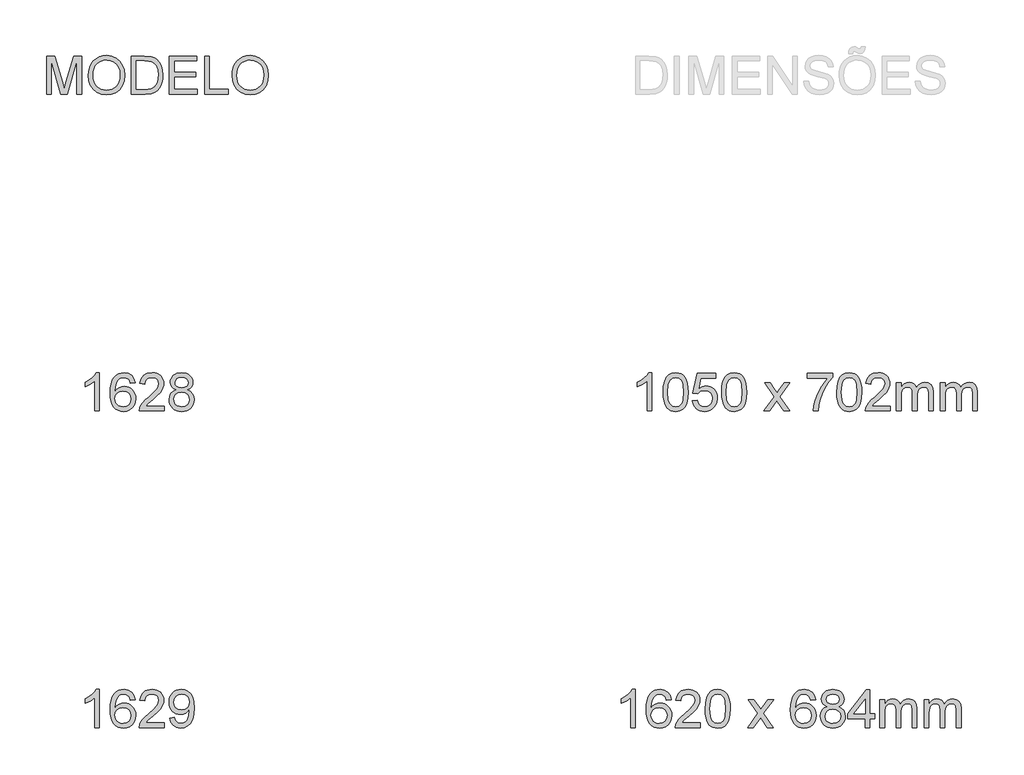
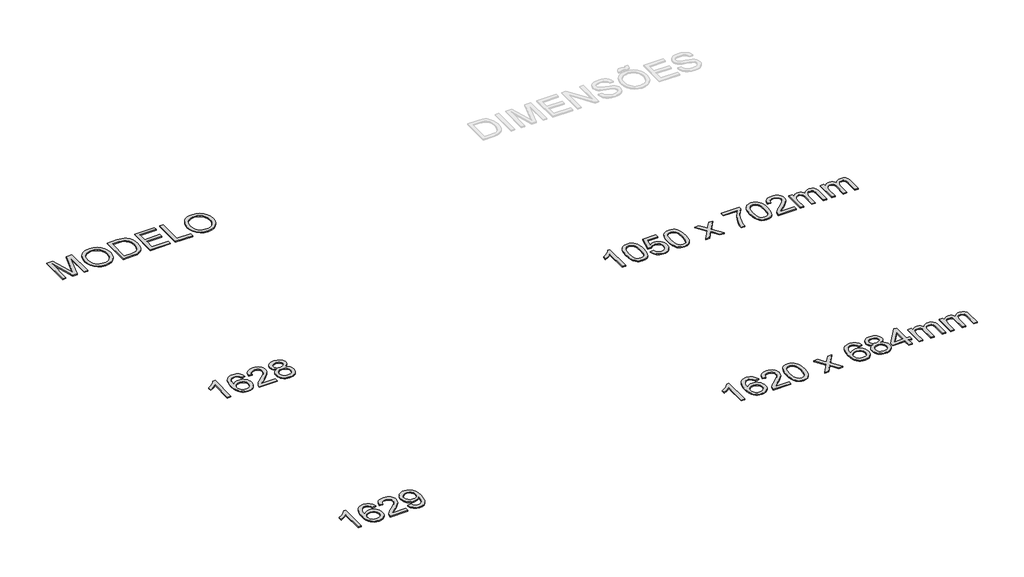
# One storey, part 37 of 39: 5 proxies.
"""IFC4 building model written with IfcOpenShell, lengths in millimetres."""

from ifc_helpers import new_model, si_unit, origin, origin_with_axes, place, context, project, spatial, polyline, outline, extrude, element, save

model = new_model("IFC4")

# Units and contexts
model_context = context("Model", 3, world=origin())
ifc_project = project(units=[si_unit("LENGTHUNIT", "METRE", prefix="MILLI")], contexts=[model_context])

# Site, building, storey
site = spatial("IfcSite", under=ifc_project)
building = spatial("IfcBuilding", under=site)
storey = spatial("IfcBuildingStorey", under=building, Name="Marelli - Linha PROFIT - Planta Baixa", Elevation=0.0)

# Proxies
placement = place(None, origin())
element("IfcBuildingElementProxy", 1, Name="300mm Arial", ObjectType="300mm Arial", at=placement, inside=storey, context=model_context, shape_type="SweptSolid", body=[
    extrude(outline(polyline([(24811.8052865, 11719.4336799), (24774.1341702, 11719.4336799), (24774.1341702, 11954.2895457), (24738.4496167, 11928.8688998), (24698.7919376, 11909.8494006), (24698.7919376, 11945.4603778), (24728.378847, 11961.5552151), (24754.011025, 11980.7034729), (24774.2169436, 12001.0657413), (24787.5250748, 12020.8026104), (24811.8052865, 12020.8026104), (24811.8052865, 11719.4336799)])), origin_with_axes(), (0.0, 0.0, 1.0), 10.0),
    extrude(outline(polyline([(24901.2741877, 11867.690124), (24904.0424997, 11915.9286506), (24912.3474358, 11954.3999103), (24926.1062224, 11983.6925141), (24945.2360861, 12004.3950734), (24969.8749828, 12016.7007261), (25000.160868, 12020.8026104), (25023.3742219, 12018.3745892), (25044.1595546, 12011.0905257), (25061.5419789, 11999.2355284), (25074.5466074, 11983.0947059), (25084.3690567, 11962.8060138), (25092.2049432, 11938.5074081), (25097.336897, 11907.6513057), (25099.0475483, 11867.690124), (25096.3068275, 11819.7275089), (25088.0846649, 11781.3482197), (25074.4086517, 11752.0280247), (25055.3063791, 11731.242692), (25030.6123002, 11718.8542658), (25000.160868, 11714.7247904), (24979.4123235, 11716.5182151), (24961.0182237, 11721.8984893), (24944.9785687, 11730.8656129), (24931.2933585, 11743.419586), (24918.1599713, 11766.1133066), (24908.7789804, 11794.3896364), (24903.1503859, 11828.2485756), (24901.2741877, 11867.690124)]), holes=[polyline([(24938.945304, 11867.7637004), (24943.359888, 11808.507108), (24948.8781179, 11788.2391093), (24956.6036398, 11774.211309), (24976.3221147, 11757.8497573), (25000.160868, 11752.3959067), (25023.9996213, 11757.8681514), (25043.7180962, 11774.2848854), (25051.4436181, 11788.3356784), (25056.9618481, 11808.5990785), (25061.376432, 11867.7637004), (25057.1090009, 11925.6867205), (25051.7747119, 11945.8880406), (25044.3067074, 11960.249234), (25024.6250207, 11977.410929), (24999.7194096, 11983.1314941), (24976.1381737, 11978.0915107), (24957.192251, 11962.9715607), (24949.2092117, 11947.3365759), (24943.5070408, 11926.2569376), (24938.945304, 11867.7637004)])]), origin_with_axes(), (0.0, 0.0, 1.0), 10.0),
    extrude(outline(polyline([(25132.0097751, 11799.4848021), (25169.6808914, 11804.1936916), (25176.5970729, 11781.578146), (25188.6636023, 11765.3821411), (25205.8252974, 11755.6424653), (25228.0269758, 11752.3959067), (25255.0295143, 11756.9116582), (25275.263024, 11770.4589127), (25287.8997705, 11791.4741716), (25292.1120194, 11818.3939366), (25288.166485, 11843.7410061), (25276.3298818, 11863.1283872), (25256.5102393, 11875.43404), (25228.615587, 11879.5359242), (25210.3410489, 11877.8988494), (25195.5429957, 11872.9876247), (25174.3897809, 11855.9914765), (25136.7186646, 11860.7003661), (25169.6808914, 12016.0937208), (25315.6564671, 12016.0937208), (25315.6564671, 11978.4226045), (25200.1415206, 11978.4226045), (25184.0282892, 11895.4284264), (25210.9388572, 11911.762387), (25239.1370121, 11917.2070405), (25257.4828273, 11915.5193819), (25274.334122, 11910.4564059), (25289.690896, 11902.0181127), (25303.5531494, 11890.2045021), (25315.0287684, 11875.7375426), (25323.2256391, 11859.3392027), (25328.1437616, 11841.0094823), (25329.7831357, 11820.7483814), (25323.8786297, 11783.0772651), (25316.4979971, 11766.283452), (25306.1651116, 11750.8508023), (25290.5117327, 11735.0456721), (25272.2463917, 11723.7562934), (25251.3690884, 11716.9826661), (25227.879823, 11714.7247904), (25190.8800914, 11720.5281289), (25175.2014206, 11727.782302), (25161.4035465, 11737.9381443), (25149.923329, 11750.4898181), (25141.1976279, 11764.9314857), (25132.0097751, 11799.4848021)])), origin_with_axes(), (0.0, 0.0, 1.0), 10.0),
    extrude(outline(polyline([(25362.7453625, 11867.690124), (25365.5136745, 11915.9286506), (25373.8186105, 11954.3999103), (25387.5773971, 11983.6925141), (25406.7072609, 12004.3950734), (25431.3461575, 12016.7007261), (25461.6320428, 12020.8026104), (25484.8453967, 12018.3745892), (25505.6307294, 12011.0905257), (25523.0131537, 11999.2355284), (25536.0177822, 11983.0947059), (25545.8402315, 11962.8060138), (25553.676118, 11938.5074081), (25558.8080718, 11907.6513057), (25560.5187231, 11867.690124), (25557.7780022, 11819.7275089), (25549.5558396, 11781.3482197), (25535.8798264, 11752.0280247), (25516.7775538, 11731.242692), (25492.0834749, 11718.8542658), (25461.6320428, 11714.7247904), (25440.8834982, 11716.5182151), (25422.4893985, 11721.8984893), (25406.4497435, 11730.8656129), (25392.7645333, 11743.419586), (25379.631146, 11766.1133066), (25370.2501552, 11794.3896364), (25364.6215606, 11828.2485756), (25362.7453625, 11867.690124)]), holes=[polyline([(25400.4164788, 11867.7637004), (25404.8310627, 11808.507108), (25410.3492926, 11788.2391093), (25418.0748145, 11774.211309), (25437.7932895, 11757.8497573), (25461.6320428, 11752.3959067), (25485.4707961, 11757.8681514), (25505.189271, 11774.2848854), (25512.9147929, 11788.3356784), (25518.4330228, 11808.5990785), (25522.8476068, 11867.7637004), (25518.5801756, 11925.6867205), (25513.2458867, 11945.8880406), (25505.7778822, 11960.249234), (25486.0961954, 11977.410929), (25461.1905844, 11983.1314941), (25437.6093485, 11978.0915107), (25418.6634257, 11962.9715607), (25410.6803864, 11947.3365759), (25404.9782155, 11926.2569376), (25400.4164788, 11867.7637004)])]), origin_with_axes(), (0.0, 0.0, 1.0), 10.0),
    extrude(outline(polyline([(25697.0765197, 11719.4336799), (25777.5691002, 11830.6811953), (25701.7854092, 11940.7514882), (25747.108471, 11940.7514882), (25783.6759413, 11887.7764809), (25800.7456659, 11862.7605053), (25815.5345221, 11883.2147442), (25857.178764, 11940.7514882), (25902.5018258, 11940.7514882), (25822.892162, 11830.6811953), (25899.5587698, 11719.4336799), (25854.235708, 11719.4336799), (25808.1033058, 11786.3146267), (25799.6420199, 11798.5283089), (25742.3995815, 11719.4336799), (25697.0765197, 11719.4336799)])), origin_with_axes(), (0.0, 0.0, 1.0), 10.0),
    extrude(outline(polyline([(26040.825456, 11978.4226045), (26040.825456, 12016.0937208), (26238.5988166, 12016.0937208), (26238.5988166, 11985.6330916), (26210.4098587, 11949.9577352), (26182.4968123, 11904.5886881), (26157.8763098, 11853.6646229), (26139.5649835, 11801.3242121), (26130.5886628, 11762.1631737), (26125.5854677, 11719.4336799), (26087.9143514, 11719.4336799), (26091.9886445, 11758.2636245), (26102.8871486, 11804.4144208), (26120.3155581, 11853.3335291), (26143.9795674, 11900.4684098), (26171.6075053, 11943.0783418), (26200.9277003, 11978.4226045), (26040.825456, 11978.4226045)])), origin_with_axes(), (0.0, 0.0, 1.0), 10.0),
    extrude(outline(polyline([(26271.5610434, 11867.690124), (26274.3293554, 11915.9286506), (26282.6342914, 11954.3999103), (26296.393078, 11983.6925141), (26315.5229418, 12004.3950734), (26340.1618384, 12016.7007261), (26370.4477237, 12020.8026104), (26393.6610775, 12018.3745892), (26414.4464103, 12011.0905257), (26431.8288345, 11999.2355284), (26444.8334631, 11983.0947059), (26454.6559123, 11962.8060138), (26462.4917988, 11938.5074081), (26467.6237527, 11907.6513057), (26469.334404, 11867.690124), (26466.5936831, 11819.7275089), (26458.3715205, 11781.3482197), (26444.6955073, 11752.0280247), (26425.5932347, 11731.242692), (26400.8991558, 11718.8542658), (26370.4477237, 11714.7247904), (26349.6991791, 11716.5182151), (26331.3050794, 11721.8984893), (26315.2654244, 11730.8656129), (26301.5802142, 11743.419586), (26288.4468269, 11766.1133066), (26279.0658361, 11794.3896364), (26273.4372415, 11828.2485756), (26271.5610434, 11867.690124)]), holes=[polyline([(26309.2321597, 11867.7637004), (26313.6467436, 11808.507108), (26319.1649735, 11788.2391093), (26326.8904954, 11774.211309), (26346.6089704, 11757.8497573), (26370.4477237, 11752.3959067), (26394.2864769, 11757.8681514), (26414.0049519, 11774.2848854), (26421.7304738, 11788.3356784), (26427.2487037, 11808.5990785), (26431.6632877, 11867.7637004), (26427.3958565, 11925.6867205), (26422.0615676, 11945.8880406), (26414.5935631, 11960.249234), (26394.9118763, 11977.410929), (26370.0062653, 11983.1314941), (26346.4250294, 11978.0915107), (26327.4791066, 11962.9715607), (26319.4960673, 11947.3365759), (26313.7938964, 11926.2569376), (26309.2321597, 11867.7637004)])]), origin_with_axes(), (0.0, 0.0, 1.0), 10.0),
    extrude(outline(polyline([(26695.3611018, 11757.1047962), (26695.3611018, 11719.4336799), (26497.5877412, 11719.4336799), (26501.6344431, 11745.4061488), (26510.9234635, 11765.7040379), (26524.5167032, 11785.3949217), (26544.1799959, 11806.0055104), (26571.679175, 11829.0625145), (26612.3301355, 11865.1701323), (26636.7207118, 11891.8231829), (26648.9159999, 11913.4546442), (26652.9810959, 11934.4974943), (26649.1459261, 11953.3606436), (26637.6404168, 11969.0416137), (26619.9544898, 11979.609024), (26597.5780675, 11983.1314941), (26574.079605, 11979.6917974), (26555.823461, 11969.3727075), (26544.0420401, 11952.9835646), (26539.967747, 11931.3337092), (26502.2966307, 11936.0425987), (26511.4293013, 11972.4813103), (26519.9756599, 11987.0172476), (26531.1753673, 11999.0975727), (26544.7709063, 12008.5935267), (26560.5047594, 12015.376351), (26598.3874079, 12020.8026104), (26618.5772316, 12019.2942942), (26636.5459678, 12014.7693457), (26652.2936165, 12007.2277648), (26665.8201776, 11996.6695515), (26676.6841928, 11983.8764551), (26684.4442036, 11969.6302249), (26689.1002101, 11953.9308607), (26690.6522123, 11936.7783627), (26688.9783492, 11918.761342), (26683.9567599, 11901.057021), (26675.0448186, 11883.0491973), (26661.6998992, 11864.1216686), (26640.4271229, 11841.5245171), (26607.7316105, 11812.5078247), (26564.3951115, 11776.2714482), (26547.3989633, 11757.1047962), (26695.3611018, 11757.1047962)])), origin_with_axes(), (0.0, 0.0, 1.0), 10.0),
    extrude(outline(polyline([(26742.4499972, 11719.4336799), (26742.4499972, 11940.7514882), (26780.1211135, 11940.7514882), (26780.1211135, 11904.3311707), (26791.4518789, 11921.0606044), (26806.0200059, 11934.1664005), (26823.3288538, 11942.6368835), (26842.8817819, 11945.4603778), (26863.8326615, 11942.5817012), (26880.6264746, 11933.9456713), (26893.1712506, 11920.1225054), (26901.3750191, 11901.6824203), (26915.1062146, 11920.8352767), (26930.7687905, 11934.5158884), (26948.3627469, 11942.7242554), (26967.8880838, 11945.4603778), (26996.2058004, 11940.9078381), (27017.147483, 11927.250219), (27030.0877322, 11904.1196386), (27034.4011485, 11871.1482147), (27034.4011485, 11719.4336799), (26996.7300322, 11719.4336799), (26996.7300322, 11854.961407), (26993.2351533, 11886.4153175), (26988.3239287, 11895.0881356), (26980.5800127, 11901.9031495), (26970.6196076, 11906.3177335), (26959.0589159, 11907.7892615), (26938.6506623, 11904.018471), (26922.013199, 11892.7060997), (26910.949148, 11873.0795952), (26907.261131, 11844.3664055), (26907.261131, 11719.4336799), (26869.5900147, 11719.4336799), (26869.5900147, 11859.1552617), (26867.4103139, 11880.4556292), (26860.8712114, 11895.6491556), (26849.365702, 11904.754235), (26832.2867804, 11907.7892615), (26817.7738357, 11905.7659105), (26804.4013252, 11899.6958576), (26793.3648653, 11889.7262555), (26785.8600726, 11876.0042571), (26781.5558533, 11856.9663638), (26780.1211135, 11831.0490773), (26780.1211135, 11719.4336799), (26742.4499972, 11719.4336799)])), origin_with_axes(), (0.0, 0.0, 1.0), 10.0),
    extrude(outline(polyline([(27090.907823, 11719.4336799), (27090.907823, 11940.7514882), (27128.5789393, 11940.7514882), (27128.5789393, 11904.3311707), (27139.9097048, 11921.0606044), (27154.4778318, 11934.1664005), (27171.7866796, 11942.6368835), (27191.3396077, 11945.4603778), (27212.2904873, 11942.5817012), (27229.0843004, 11933.9456713), (27241.6290764, 11920.1225054), (27249.8328449, 11901.6824203), (27263.5640404, 11920.8352767), (27279.2266163, 11934.5158884), (27296.8205728, 11942.7242554), (27316.3459097, 11945.4603778), (27344.6636262, 11940.9078381), (27365.6053088, 11927.250219), (27378.545558, 11904.1196386), (27382.8589744, 11871.1482147), (27382.8589744, 11719.4336799), (27345.1878581, 11719.4336799), (27345.1878581, 11854.961407), (27341.6929791, 11886.4153175), (27336.7817545, 11895.0881356), (27329.0378385, 11901.9031495), (27319.0774335, 11906.3177335), (27307.5167418, 11907.7892615), (27287.1084881, 11904.018471), (27270.4710249, 11892.7060997), (27259.4069738, 11873.0795952), (27255.7189568, 11844.3664055), (27255.7189568, 11719.4336799), (27218.0478405, 11719.4336799), (27218.0478405, 11859.1552617), (27215.8681397, 11880.4556292), (27209.3290373, 11895.6491556), (27197.8235279, 11904.754235), (27180.7446062, 11907.7892615), (27166.2316615, 11905.7659105), (27152.859151, 11899.6958576), (27141.8226911, 11889.7262555), (27134.3178984, 11876.0042571), (27130.0136791, 11856.9663638), (27128.5789393, 11831.0490773), (27128.5789393, 11719.4336799), (27090.907823, 11719.4336799)])), origin_with_axes(), (0.0, 0.0, 1.0), 10.0),
])
element("IfcBuildingElementProxy", 2, Name="300mm Arial", ObjectType="300mm Arial", at=placement, inside=storey, context=model_context, shape_type="SweptSolid", body=[
    extrude(outline(polyline([(24682.3108242, 9219.4336799), (24644.6397079, 9219.4336799), (24644.6397079, 9454.2895457), (24608.9551543, 9428.8688998), (24569.2974753, 9409.8494006), (24569.2974753, 9445.4603778), (24598.8843847, 9461.5552151), (24624.5165627, 9480.7034729), (24644.7224813, 9501.0657413), (24658.0306125, 9520.8026104), (24682.3108242, 9520.8026104), (24682.3108242, 9219.4336799)])), origin_with_axes(), (0.0, 0.0, 1.0), 10.0),
    extrude(outline(polyline([(24964.8441965, 9440.7514882), (24927.1730802, 9436.0425987), (24921.1030273, 9454.7126099), (24912.8992588, 9467.4597211), (24895.8111401, 9479.2135508), (24875.1545661, 9483.1314941), (24857.6433831, 9480.8506257), (24841.1622697, 9474.0080206), (24827.0080099, 9459.5962434), (24815.4473182, 9439.7582068), (24807.6390229, 9411.6980077), (24804.7419522, 9372.6197427), (24819.8527051, 9390.2504873), (24837.9616963, 9402.6757017), (24858.0572503, 9410.0425387), (24879.1276916, 9412.498151), (24897.2274858, 9410.8196894), (24913.9293283, 9405.7843046), (24929.2332193, 9397.3919966), (24943.1391588, 9385.6427654), (24954.6952519, 9371.2355867), (24962.9496042, 9354.8694365), (24967.9022156, 9336.5443146), (24969.553086, 9316.2602211), (24966.4444832, 9289.2852738), (24957.1186746, 9264.2784951), (24942.3482125, 9243.0700981), (24922.905649, 9227.4902956), (24899.673901, 9217.9161667), (24873.5358853, 9214.7247904), (24851.0789887, 9216.8401119), (24830.7971945, 9223.1860763), (24812.6905025, 9233.7626836), (24796.7589129, 9248.5699339), (24783.7703792, 9268.2332266), (24774.4928551, 9293.377961), (24768.9263407, 9324.0041371), (24767.0708359, 9360.1117549), (24769.130975, 9400.5925699), (24775.3113926, 9435.1412878), (24785.6120884, 9463.7579085), (24800.0330626, 9486.442432), (24815.6634489, 9501.4750101), (24833.7862357, 9512.2125658), (24854.401423, 9518.6550992), (24877.5090108, 9520.8026104), (24910.5632081, 9515.4867156), (24937.0323176, 9499.5390311), (24955.5735702, 9474.2103557), (24964.8441965, 9440.7514882)]), holes=[polyline([(24804.7419522, 9316.8488323), (24806.921653, 9300.1561867), (24813.4607555, 9284.2176993), (24823.6142985, 9270.514095), (24836.6373212, 9260.5260988), (24852.3550794, 9254.4284547), (24870.5928293, 9252.3959067), (24895.4524551, 9256.6081555), (24914.9961861, 9269.2449021), (24927.6605238, 9289.1105298), (24931.8819697, 9315.0094223), (24927.7157061, 9339.8690481), (24915.2169153, 9358.8241679), (24895.3420905, 9370.826318), (24869.0477249, 9374.8270347), (24844.2248873, 9370.826318), (24823.4671457, 9358.8241679), (24809.4232506, 9340.3289006), (24804.7419522, 9316.8488323)])]), origin_with_axes(), (0.0, 0.0, 1.0), 10.0),
    extrude(outline(polyline([(25195.5797839, 9257.1047962), (25195.5797839, 9219.4336799), (24997.8064233, 9219.4336799), (25001.8531252, 9245.4061488), (25011.1421456, 9265.7040379), (25024.7353853, 9285.3949217), (25044.3986779, 9306.0055104), (25071.8978571, 9329.0625145), (25112.5488175, 9365.1701323), (25136.9393938, 9391.8231829), (25149.134682, 9413.4546442), (25153.199778, 9434.4974943), (25149.3646082, 9453.3606436), (25137.8590988, 9469.0416137), (25120.1731719, 9479.609024), (25097.7967495, 9483.1314941), (25074.2982871, 9479.6917974), (25056.0421431, 9469.3727075), (25044.2607222, 9452.9835646), (25040.1864291, 9431.3337092), (25002.5153128, 9436.0425987), (25011.6479833, 9472.4813103), (25020.1943419, 9487.0172476), (25031.3940494, 9499.0975727), (25044.9895884, 9508.5935267), (25060.7234415, 9515.376351), (25098.6060899, 9520.8026104), (25118.7959137, 9519.2942942), (25136.7646499, 9514.7693457), (25152.5122985, 9507.2277648), (25166.0388596, 9496.6695515), (25176.9028748, 9483.8764551), (25184.6628857, 9469.6302249), (25189.3188922, 9453.9308607), (25190.8708943, 9436.7783627), (25189.1970312, 9418.761342), (25184.175442, 9401.057021), (25175.2635007, 9383.0491973), (25161.9185813, 9364.1216686), (25140.6458049, 9341.5245171), (25107.9502926, 9312.5078247), (25064.6137936, 9276.2714482), (25047.6176454, 9257.1047962), (25195.5797839, 9257.1047962)])), origin_with_axes(), (0.0, 0.0, 1.0), 10.0),
    extrude(outline(polyline([(25233.2509002, 9367.690124), (25236.0192122, 9415.9286506), (25244.3241482, 9454.3999103), (25258.0829348, 9483.6925141), (25277.2127986, 9504.3950734), (25301.8516952, 9516.7007261), (25332.1375805, 9520.8026104), (25355.3509344, 9518.3745892), (25376.1362671, 9511.0905257), (25393.5186914, 9499.2355284), (25406.5233199, 9483.0947059), (25416.3457692, 9462.8060138), (25424.1816557, 9438.5074081), (25429.3136095, 9407.6513057), (25431.0242608, 9367.690124), (25428.2835399, 9319.7275089), (25420.0613773, 9281.3482197), (25406.3853641, 9252.0280247), (25387.2830915, 9231.242692), (25362.5890126, 9218.8542658), (25332.1375805, 9214.7247904), (25311.3890359, 9216.5182151), (25292.9949362, 9221.8984893), (25276.9552812, 9230.8656129), (25263.270071, 9243.419586), (25250.1366837, 9266.1133066), (25240.7556929, 9294.3896364), (25235.1270983, 9328.2485756), (25233.2509002, 9367.690124)]), holes=[polyline([(25270.9220165, 9367.7637004), (25275.3366004, 9308.507108), (25280.8548303, 9288.2391093), (25288.5803522, 9274.211309), (25308.2988272, 9257.8497573), (25332.1375805, 9252.3959067), (25355.9763338, 9257.8681514), (25375.6948087, 9274.2848854), (25383.4203306, 9288.3356784), (25388.9385605, 9308.5990785), (25393.3531445, 9367.7637004), (25389.0857133, 9425.6867205), (25383.7514244, 9445.8880406), (25376.2834199, 9460.249234), (25356.6017331, 9477.410929), (25331.6961221, 9483.1314941), (25308.1148862, 9478.0915107), (25289.1689634, 9462.9715607), (25281.1859241, 9447.3365759), (25275.4837532, 9426.2569376), (25270.9220165, 9367.7637004)])]), origin_with_axes(), (0.0, 0.0, 1.0), 10.0),
    extrude(outline(polyline([(25567.5820574, 9219.4336799), (25648.0746379, 9330.6811953), (25572.2909469, 9440.7514882), (25617.6140087, 9440.7514882), (25654.181479, 9387.7764809), (25671.2512036, 9362.7605053), (25686.0400598, 9383.2147442), (25727.6843017, 9440.7514882), (25773.0073635, 9440.7514882), (25693.3976997, 9330.6811953), (25770.0643075, 9219.4336799), (25724.7412457, 9219.4336799), (25678.6088435, 9286.3146267), (25670.1475576, 9298.5283089), (25612.9051192, 9219.4336799), (25567.5820574, 9219.4336799)])), origin_with_axes(), (0.0, 0.0, 1.0), 10.0),
    extrude(outline(polyline([(26104.3954647, 9440.7514882), (26066.7243484, 9436.0425987), (26060.6542955, 9454.7126099), (26052.450527, 9467.4597211), (26035.3624083, 9479.2135508), (26014.7058343, 9483.1314941), (25997.1946513, 9480.8506257), (25980.713538, 9474.0080206), (25966.5592782, 9459.5962434), (25954.9985865, 9439.7582068), (25947.1902912, 9411.6980077), (25944.2932204, 9372.6197427), (25959.4039734, 9390.2504873), (25977.5129646, 9402.6757017), (25997.6085186, 9410.0425387), (26018.6789599, 9412.498151), (26036.778754, 9410.8196894), (26053.4805966, 9405.7843046), (26068.7844876, 9397.3919966), (26082.690427, 9385.6427654), (26094.2465202, 9371.2355867), (26102.5008725, 9354.8694365), (26107.4534838, 9336.5443146), (26109.1043543, 9316.2602211), (26105.9957514, 9289.2852738), (26096.6699428, 9264.2784951), (26081.8994807, 9243.0700981), (26062.4569173, 9227.4902956), (26039.2251693, 9217.9161667), (26013.0871535, 9214.7247904), (25990.630257, 9216.8401119), (25970.3484627, 9223.1860763), (25952.2417708, 9233.7626836), (25936.3101811, 9248.5699339), (25923.3216475, 9268.2332266), (25914.0441234, 9293.377961), (25908.4776089, 9324.0041371), (25906.6221041, 9360.1117549), (25908.6822433, 9400.5925699), (25914.8626608, 9435.1412878), (25925.1633567, 9463.7579085), (25939.5843309, 9486.442432), (25955.2147172, 9501.4750101), (25973.337504, 9512.2125658), (25993.9526913, 9518.6550992), (26017.0602791, 9520.8026104), (26050.1144764, 9515.4867156), (26076.5835859, 9499.5390311), (26095.1248385, 9474.2103557), (26104.3954647, 9440.7514882)]), holes=[polyline([(25944.2932204, 9316.8488323), (25946.4729213, 9300.1561867), (25953.0120237, 9284.2176993), (25963.1655668, 9270.514095), (25976.1885894, 9260.5260988), (25991.9063477, 9254.4284547), (26010.1440976, 9252.3959067), (26035.0037234, 9256.6081555), (26054.5474544, 9269.2449021), (26067.2117921, 9289.1105298), (26071.433238, 9315.0094223), (26067.2669744, 9339.8690481), (26054.7681836, 9358.8241679), (26034.8933588, 9370.826318), (26008.5989932, 9374.8270347), (25983.7761556, 9370.826318), (25963.018414, 9358.8241679), (25948.9745188, 9340.3289006), (25944.2932204, 9316.8488323)])]), origin_with_axes(), (0.0, 0.0, 1.0), 10.0),
    extrude(outline(polyline([(26196.9545747, 9385.4220362), (26176.7854443, 9395.35485), (26162.6311846, 9408.819331), (26154.2710662, 9425.5395677), (26151.4843601, 9445.2396486), (26153.0018734, 9460.6033204), (26157.554413, 9474.6886023), (26165.1419792, 9487.4954942), (26175.7645718, 9499.0239963), (26188.9117546, 9508.5521399), (26204.0730913, 9515.3579569), (26240.4382266, 9520.8026104), (26277.024091, 9515.2291982), (26292.3509746, 9508.2624329), (26305.7004925, 9498.5089615), (26316.5162232, 9486.7551317), (26324.2417451, 9473.7872914), (26328.8770582, 9459.6054405), (26330.4221626, 9444.209579), (26327.6722447, 9425.1440946), (26319.4224909, 9408.7089665), (26305.5809309, 9395.3272589), (26286.055594, 9385.4220362), (26309.2413567, 9373.4750684), (26326.1179432, 9355.8811119), (26336.4094421, 9333.4862955), (26339.8399417, 9307.1367476), (26338.1384874, 9288.3471747), (26333.0341247, 9271.1211003), (26324.5268536, 9255.4585243), (26312.616674, 9241.3594468), (26297.9289854, 9229.7067846), (26281.089187, 9221.3834545), (26262.097279, 9216.3894564), (26240.9532614, 9214.7247904), (26219.8092437, 9216.3963542), (26200.8173357, 9221.4110457), (26183.9775373, 9229.7688647), (26169.2898487, 9241.4698114), (26157.3796691, 9255.6677572), (26148.872398, 9271.5165734), (26143.7680353, 9289.0162601), (26142.066581, 9308.1668172), (26145.6350364, 9335.5372376), (26156.3404025, 9358.0516157), (26173.6308562, 9374.9373993), (26196.9545747, 9385.4220362)]), holes=[polyline([(26189.1554764, 9444.1360026), (26192.4940055, 9427.6916774), (26202.5095929, 9414.5582902), (26218.9079328, 9405.9498515), (26241.3947197, 9403.0803719), (26263.3572749, 9405.9314574), (26279.5072944, 9414.4847138), (26289.4401083, 9427.1766426), (26292.7510463, 9442.4437454), (26289.3297437, 9458.2902624), (26279.0658361, 9471.3960584), (26262.6950873, 9480.1976352), (26240.9532614, 9483.1314941), (26219.0734797, 9480.2620145), (26202.7303221, 9471.6535758), (26192.5491878, 9459.0352234), (26189.1554764, 9444.1360026)]), polyline([(26179.7376974, 9309.4911924), (26186.0284795, 9281.1274905), (26194.7380857, 9268.9597935), (26208.2853402, 9259.9006994), (26224.5089362, 9254.2721049), (26241.2475669, 9252.3959067), (26266.888942, 9256.3414411), (26286.1291704, 9268.1780443), (26298.1589116, 9286.1030945), (26302.1688253, 9308.31397), (26298.0301529, 9330.9019245), (26285.6141356, 9349.2224478), (26265.9324488, 9361.3625537), (26239.9967682, 9365.4092556), (26214.714078, 9361.417736), (26195.6669877, 9349.443177), (26183.72002, 9331.4721416), (26179.7376974, 9309.4911924)])]), origin_with_axes(), (0.0, 0.0, 1.0), 10.0),
    extrude(outline(polyline([(26495.2332964, 9219.4336799), (26495.2332964, 9290.067023), (26358.6754998, 9290.067023), (26358.6754998, 9327.7381393), (26504.6510755, 9516.0937208), (26532.9044127, 9516.0937208), (26532.9044127, 9327.7381393), (26570.575529, 9327.7381393), (26570.575529, 9290.067023), (26532.9044127, 9290.067023), (26532.9044127, 9219.4336799), (26495.2332964, 9219.4336799)]), holes=[polyline([(26495.2332964, 9327.7381393), (26495.2332964, 9444.1360026), (26405.0286312, 9327.7381393), (26495.2332964, 9327.7381393)])]), origin_with_axes(), (0.0, 0.0, 1.0), 10.0),
    extrude(outline(polyline([(26612.9555349, 9219.4336799), (26612.9555349, 9440.7514882), (26650.6266512, 9440.7514882), (26650.6266512, 9404.3311707), (26661.9574166, 9421.0606044), (26676.5255436, 9434.1664005), (26693.8343915, 9442.6368835), (26713.3873196, 9445.4603778), (26734.3381992, 9442.5817012), (26751.1320123, 9433.9456713), (26763.6767883, 9420.1225054), (26771.8805568, 9401.6824203), (26785.6117523, 9420.8352767), (26801.2743282, 9434.5158884), (26818.8682846, 9442.7242554), (26838.3936215, 9445.4603778), (26866.7113381, 9440.9078381), (26887.6530207, 9427.250219), (26900.5932699, 9404.1196386), (26904.9066862, 9371.1482147), (26904.9066862, 9219.4336799), (26867.2355699, 9219.4336799), (26867.2355699, 9354.961407), (26863.740691, 9386.4153175), (26858.8294664, 9395.0881356), (26851.0855504, 9401.9031495), (26841.1251453, 9406.3177335), (26829.5644536, 9407.7892615), (26809.1562, 9404.018471), (26792.5187367, 9392.7060997), (26781.4546857, 9373.0795952), (26777.7666687, 9344.3664055), (26777.7666687, 9219.4336799), (26740.0955524, 9219.4336799), (26740.0955524, 9359.1552617), (26737.9158516, 9380.4556292), (26731.3767491, 9395.6491556), (26719.8712397, 9404.754235), (26702.7923181, 9407.7892615), (26688.2793734, 9405.7659105), (26674.9068629, 9399.6958576), (26663.870403, 9389.7262555), (26656.3656103, 9376.0042571), (26652.061391, 9356.9663638), (26650.6266512, 9331.0490773), (26650.6266512, 9219.4336799), (26612.9555349, 9219.4336799)])), origin_with_axes(), (0.0, 0.0, 1.0), 10.0),
    extrude(outline(polyline([(26961.4133607, 9219.4336799), (26961.4133607, 9440.7514882), (26999.084477, 9440.7514882), (26999.084477, 9404.3311707), (27010.4152425, 9421.0606044), (27024.9833695, 9434.1664005), (27042.2922173, 9442.6368835), (27061.8451454, 9445.4603778), (27082.796025, 9442.5817012), (27099.5898381, 9433.9456713), (27112.1346141, 9420.1225054), (27120.3383826, 9401.6824203), (27134.0695781, 9420.8352767), (27149.732154, 9434.5158884), (27167.3261105, 9442.7242554), (27186.8514474, 9445.4603778), (27215.1691639, 9440.9078381), (27236.1108465, 9427.250219), (27249.0510957, 9404.1196386), (27253.3645121, 9371.1482147), (27253.3645121, 9219.4336799), (27215.6933958, 9219.4336799), (27215.6933958, 9354.961407), (27212.1985168, 9386.4153175), (27207.2872922, 9395.0881356), (27199.5433762, 9401.9031495), (27189.5829712, 9406.3177335), (27178.0222795, 9407.7892615), (27157.6140258, 9404.018471), (27140.9765626, 9392.7060997), (27129.9125115, 9373.0795952), (27126.2244945, 9344.3664055), (27126.2244945, 9219.4336799), (27088.5533782, 9219.4336799), (27088.5533782, 9359.1552617), (27086.3736774, 9380.4556292), (27079.834575, 9395.6491556), (27068.3290656, 9404.754235), (27051.2501439, 9407.7892615), (27036.7371992, 9405.7659105), (27023.3646887, 9399.6958576), (27012.3282288, 9389.7262555), (27004.8234361, 9376.0042571), (27000.5192168, 9356.9663638), (26999.084477, 9331.0490773), (26999.084477, 9219.4336799), (26961.4133607, 9219.4336799)])), origin_with_axes(), (0.0, 0.0, 1.0), 10.0),
])
element("IfcBuildingElementProxy", 3, Name="300mm Arial", ObjectType="300mm Arial", at=placement, inside=storey, context=model_context, shape_type="SweptSolid", body=[
    extrude(outline(polyline([(20033.1230948, 14219.4336799), (20033.1230948, 14520.8026104), (20097.9439023, 14520.8026104), (20159.6009247, 14308.3875464), (20172.0353362, 14264.0209777), (20185.4998172, 14312.0663663), (20246.12677, 14520.8026104), (20310.9475775, 14520.8026104), (20310.9475775, 14219.4336799), (20273.2764612, 14219.4336799), (20273.2764612, 14483.1314941), (20197.5663466, 14219.4336799), (20146.5043257, 14219.4336799), (20070.7942111, 14483.1314941), (20070.7942111, 14219.4336799), (20033.1230948, 14219.4336799)])), origin_with_axes(), (0.0, 0.0, 1.0), 10.0),
    extrude(outline(polyline([(20362.7453625, 14366.1450196), (20365.2561571, 14401.4938808), (20372.7885409, 14432.786843), (20385.342514, 14460.0239063), (20402.9180763, 14483.2050705), (20424.4621657, 14501.7141334), (20448.9217198, 14514.9348926), (20476.2967388, 14522.8673481), (20506.5872226, 14525.5114999), (20546.116143, 14520.545093), (20581.5615732, 14505.6458722), (20610.9921328, 14481.8623012), (20632.4764413, 14450.2428437), (20645.6098286, 14412.31421), (20649.9876243, 14369.6031104), (20645.3799023, 14326.3217936), (20631.5567363, 14287.859731), (20609.2814815, 14256.1850912), (20579.317493, 14233.266043), (20544.1755654, 14219.3601035), (20506.3664934, 14214.7247904), (20466.2305677, 14219.8475472), (20430.5828024, 14235.2158175), (20401.2258192, 14259.4408469), (20379.9622398, 14291.1338808), (20367.0495818, 14327.6001836), (20362.7453625, 14366.1450196)]), holes=[polyline([(20400.4164788, 14365.7771376), (20402.2995747, 14340.8025487), (20407.9488626, 14318.6330599), (20417.3643424, 14299.2686714), (20430.5460142, 14282.7093831), (20446.5695743, 14269.4472372), (20464.5107194, 14259.9742758), (20484.3694493, 14254.290499), (20506.1457642, 14252.3959067), (20528.2945596, 14254.3088931), (20548.3878143, 14260.0478522), (20566.4255284, 14269.6127841), (20582.4077018, 14283.0036887), (20595.4928045, 14299.9124649), (20604.8393064, 14320.0310115), (20610.4472076, 14343.3593285), (20612.316508, 14369.897416), (20609.1159346, 14403.2459188), (20599.5142146, 14432.0694731), (20583.7596681, 14455.641512), (20562.1006157, 14473.2354684), (20535.9717969, 14484.1891548), (20506.8079518, 14487.8403836), (20485.7880943, 14486.0814478), (20466.28575, 14480.8046405), (20448.300919, 14472.0099615), (20431.8336012, 14459.697411), (20418.0886101, 14443.2737792), (20408.2707594, 14422.1458563), (20402.3800489, 14396.3136425), (20400.4164788, 14365.7771376)])]), origin_with_axes(), (0.0, 0.0, 1.0), 10.0),
    extrude(outline(polyline([(20701.7854092, 14219.4336799), (20701.7854092, 14520.8026104), (20805.7488611, 14520.8026104), (20859.5332088, 14516.4616028), (20883.555903, 14508.0922874), (20903.826201, 14494.9037179), (20924.666716, 14471.9478814), (20939.5107545, 14443.4002386), (20948.3951047, 14409.8126124), (20951.3565547, 14371.7368259), (20949.3515979, 14339.3908015), (20943.3367273, 14310.9259321), (20934.1764656, 14286.6917057), (20922.7353355, 14267.0376101), (20909.5651601, 14251.522187), (20895.2177623, 14239.7039779), (20878.745846, 14230.9391893), (20859.202115, 14224.5840279), (20810.7520562, 14219.4336799), (20701.7854092, 14219.4336799)]), holes=[polyline([(20739.4565255, 14257.1047962), (20806.1167431, 14257.1047962), (20833.6894986, 14258.4659596), (20854.60359, 14262.5494498), (20870.3857276, 14269.1161434), (20882.5626217, 14277.9269172), (20895.6500236, 14294.2332866), (20905.4816699, 14315.3405161), (20911.6344963, 14341.3405761), (20913.6854384, 14372.3254371), (20909.6663276, 14413.3810678), (20897.6089953, 14443.6945442), (20879.7943096, 14464.5166651), (20858.5031392, 14477.0982294), (20836.8348896, 14481.6231779), (20805.0866735, 14483.1314941), (20739.4565255, 14483.1314941), (20739.4565255, 14257.1047962)])]), origin_with_axes(), (0.0, 0.0, 1.0), 10.0),
    extrude(outline(polyline([(21003.1543397, 14219.4336799), (21003.1543397, 14520.8026104), (21219.7632584, 14520.8026104), (21219.7632584, 14483.1314941), (21040.825456, 14483.1314941), (21040.825456, 14393.6625928), (21210.3454794, 14393.6625928), (21210.3454794, 14355.9914765), (21040.825456, 14355.9914765), (21040.825456, 14257.1047962), (21224.472148, 14257.1047962), (21224.472148, 14219.4336799), (21003.1543397, 14219.4336799)])), origin_with_axes(), (0.0, 0.0, 1.0), 10.0),
    extrude(outline(polyline([(21280.9788224, 14219.4336799), (21280.9788224, 14520.8026104), (21318.6499387, 14520.8026104), (21318.6499387, 14257.1047962), (21469.334404, 14257.1047962), (21469.334404, 14219.4336799), (21280.9788224, 14219.4336799)])), origin_with_axes(), (0.0, 0.0, 1.0), 10.0),
    extrude(outline(polyline([(21497.5877412, 14366.1450196), (21500.0985358, 14401.4938808), (21507.6309197, 14432.786843), (21520.1848927, 14460.0239063), (21537.7604551, 14483.2050705), (21559.3045444, 14501.7141334), (21583.7640986, 14514.9348926), (21611.1391175, 14522.8673481), (21641.4296013, 14525.5114999), (21680.9585217, 14520.545093), (21716.4039519, 14505.6458722), (21745.8345115, 14481.8623012), (21767.3188201, 14450.2428437), (21780.4522073, 14412.31421), (21784.830003, 14369.6031104), (21780.222281, 14326.3217936), (21766.3991151, 14287.859731), (21744.1238603, 14256.1850912), (21714.1598717, 14233.266043), (21679.0179442, 14219.3601035), (21641.2088721, 14214.7247904), (21601.0729464, 14219.8475472), (21565.4251811, 14235.2158175), (21536.0681979, 14259.4408469), (21514.8046186, 14291.1338808), (21501.8919605, 14327.6001836), (21497.5877412, 14366.1450196)]), holes=[polyline([(21535.2588575, 14365.7771376), (21537.1419535, 14340.8025487), (21542.7912413, 14318.6330599), (21552.2067212, 14299.2686714), (21565.3883929, 14282.7093831), (21581.4119531, 14269.4472372), (21599.3530981, 14259.9742758), (21619.2118281, 14254.290499), (21640.9881429, 14252.3959067), (21663.1369383, 14254.3088931), (21683.230193, 14260.0478522), (21701.2679071, 14269.6127841), (21717.2500805, 14283.0036887), (21730.3351832, 14299.9124649), (21739.6816852, 14320.0310115), (21745.2895863, 14343.3593285), (21747.1588867, 14369.897416), (21743.9583134, 14403.2459188), (21734.3565933, 14432.0694731), (21718.6020468, 14455.641512), (21696.9429944, 14473.2354684), (21670.8141757, 14484.1891548), (21641.6503305, 14487.8403836), (21620.630473, 14486.0814478), (21601.1281287, 14480.8046405), (21583.1432977, 14472.0099615), (21566.6759799, 14459.697411), (21552.9309888, 14443.2737792), (21543.1131381, 14422.1458563), (21537.2224276, 14396.3136425), (21535.2588575, 14365.7771376)])]), origin_with_axes(), (0.0, 0.0, 1.0), 10.0),
])
element("IfcBuildingElementProxy", 4, Name="300mm Arial", ObjectType="300mm Arial", at=placement, inside=storey, context=model_context, shape_type="SweptSolid", body=[
    extrude(outline(polyline([(20449.8598189, 11719.4336799), (20412.1887026, 11719.4336799), (20412.1887026, 11954.2895457), (20376.5041491, 11928.8688998), (20336.84647, 11909.8494006), (20336.84647, 11945.4603778), (20366.4333795, 11961.5552151), (20392.0655575, 11980.7034729), (20412.2714761, 12001.0657413), (20425.5796072, 12020.8026104), (20449.8598189, 12020.8026104), (20449.8598189, 11719.4336799)])), origin_with_axes(), (0.0, 0.0, 1.0), 10.0),
    extrude(outline(polyline([(20732.3931912, 11940.7514882), (20694.7220749, 11936.0425987), (20688.652022, 11954.7126099), (20680.4482535, 11967.4597211), (20663.3601348, 11979.2135508), (20642.7035608, 11983.1314941), (20625.1923778, 11980.8506257), (20608.7112644, 11974.0080206), (20594.5570047, 11959.5962434), (20582.996313, 11939.7582068), (20575.1880176, 11911.6980077), (20572.2909469, 11872.6197427), (20587.4016999, 11890.2504873), (20605.5106911, 11902.6757017), (20625.6062451, 11910.0425387), (20646.6766863, 11912.498151), (20664.7764805, 11910.8196894), (20681.4783231, 11905.7843046), (20696.7822141, 11897.3919966), (20710.6881535, 11885.6427654), (20722.2442467, 11871.2355867), (20730.4985989, 11854.8694365), (20735.4512103, 11836.5443146), (20737.1020808, 11816.2602211), (20733.9934779, 11789.2852738), (20724.6676693, 11764.2784951), (20709.8972072, 11743.0700981), (20690.4546438, 11727.4902956), (20667.2228958, 11717.9161667), (20641.08488, 11714.7247904), (20618.6279835, 11716.8401119), (20598.3461892, 11723.1860763), (20580.2394973, 11733.7626836), (20564.3079076, 11748.5699339), (20551.3193739, 11768.2332266), (20542.0418499, 11793.377961), (20536.4753354, 11824.0041371), (20534.6198306, 11860.1117549), (20536.6799698, 11900.5925699), (20542.8603873, 11935.1412878), (20553.1610832, 11963.7579085), (20567.5820574, 11986.442432), (20583.2124437, 12001.4750101), (20601.3352304, 12012.2125658), (20621.9504177, 12018.6550992), (20645.0580056, 12020.8026104), (20678.1122028, 12015.4867156), (20704.5813124, 11999.5390311), (20723.1225649, 11974.2103557), (20732.3931912, 11940.7514882)]), holes=[polyline([(20572.2909469, 11816.8488323), (20574.4706477, 11800.1561867), (20581.0097502, 11784.2176993), (20591.1632933, 11770.514095), (20604.1863159, 11760.5260988), (20619.9040741, 11754.4284547), (20638.1418241, 11752.3959067), (20663.0014499, 11756.6081555), (20682.5451809, 11769.2449021), (20695.2095186, 11789.1105298), (20699.4309645, 11815.0094223), (20695.2647009, 11839.8690481), (20682.7659101, 11858.8241679), (20662.8910853, 11870.826318), (20636.5967197, 11874.8270347), (20611.7738821, 11870.826318), (20591.0161405, 11858.8241679), (20576.9722453, 11840.3289006), (20572.2909469, 11816.8488323)])]), origin_with_axes(), (0.0, 0.0, 1.0), 10.0),
    extrude(outline(polyline([(20963.1287786, 11757.1047962), (20963.1287786, 11719.4336799), (20765.355418, 11719.4336799), (20769.4021199, 11745.4061488), (20778.6911403, 11765.7040379), (20792.28438, 11785.3949217), (20811.9476727, 11806.0055104), (20839.4468518, 11829.0625145), (20880.0978123, 11865.1701323), (20904.4883886, 11891.8231829), (20916.6836767, 11913.4546442), (20920.7487727, 11934.4974943), (20916.913603, 11953.3606436), (20905.4080936, 11969.0416137), (20887.7221666, 11979.609024), (20865.3457443, 11983.1314941), (20841.8472818, 11979.6917974), (20823.5911378, 11969.3727075), (20811.8097169, 11952.9835646), (20807.7354238, 11931.3337092), (20770.0643075, 11936.0425987), (20779.1969781, 11972.4813103), (20787.7433367, 11987.0172476), (20798.9430441, 11999.0975727), (20812.5385831, 12008.5935267), (20828.2724362, 12015.376351), (20866.1550847, 12020.8026104), (20886.3449084, 12019.2942942), (20904.3136446, 12014.7693457), (20920.0612933, 12007.2277648), (20933.5878544, 11996.6695515), (20944.4518696, 11983.8764551), (20952.2118804, 11969.6302249), (20956.8678869, 11953.9308607), (20958.4198891, 11936.7783627), (20956.746026, 11918.761342), (20951.7244367, 11901.057021), (20942.8124954, 11883.0491973), (20929.467576, 11864.1216686), (20908.1947997, 11841.5245171), (20875.4992873, 11812.5078247), (20832.1627883, 11776.2714482), (20815.1666401, 11757.1047962), (20963.1287786, 11757.1047962)])), origin_with_axes(), (0.0, 0.0, 1.0), 10.0),
    extrude(outline(polyline([(21055.6878886, 11885.4220362), (21035.5187582, 11895.35485), (21021.3644984, 11908.819331), (21013.0043801, 11925.5395677), (21010.217674, 11945.2396486), (21011.7351872, 11960.6033204), (21016.2877269, 11974.6886023), (21023.875293, 11987.4954942), (21034.4978857, 11999.0239963), (21047.6450685, 12008.5521399), (21062.8064052, 12015.3579569), (21099.1715404, 12020.8026104), (21135.7574048, 12015.2291982), (21151.0842885, 12008.2624329), (21164.4338064, 11998.5089615), (21175.249537, 11986.7551317), (21182.9750589, 11973.7872914), (21187.6103721, 11959.6054405), (21189.1554764, 11944.209579), (21186.4055585, 11925.1440946), (21178.1558048, 11908.7089665), (21164.3142447, 11895.3272589), (21144.7889078, 11885.4220362), (21167.9746706, 11873.4750684), (21184.8512571, 11855.8811119), (21195.1427559, 11833.4862955), (21198.5732555, 11807.1367476), (21196.8718013, 11788.3471747), (21191.7674386, 11771.1211003), (21183.2601675, 11755.4585243), (21171.3499879, 11741.3594468), (21156.6622992, 11729.7067846), (21139.8225009, 11721.3834545), (21120.8305929, 11716.3894564), (21099.6865752, 11714.7247904), (21078.5425575, 11716.3963542), (21059.5506495, 11721.4110457), (21042.7108512, 11729.7688647), (21028.0231625, 11741.4698114), (21016.1129829, 11755.6677572), (21007.6057118, 11771.5165734), (21002.5013491, 11789.0162601), (21000.7998949, 11808.1668172), (21004.3683503, 11835.5372376), (21015.0737163, 11858.0516157), (21032.3641701, 11874.9373993), (21055.6878886, 11885.4220362)]), holes=[polyline([(21047.8887903, 11944.1360026), (21051.2273194, 11927.6916774), (21061.2429067, 11914.5582902), (21077.6412466, 11905.9498515), (21100.1280336, 11903.0803719), (21122.0905887, 11905.9314574), (21138.2406083, 11914.4847138), (21148.1734222, 11927.1766426), (21151.4843601, 11942.4437454), (21148.0630576, 11958.2902624), (21137.7991499, 11971.3960584), (21121.4284011, 11980.1976352), (21099.6865752, 11983.1314941), (21077.8067935, 11980.2620145), (21061.4636359, 11971.6535758), (21051.2825017, 11959.0352234), (21047.8887903, 11944.1360026)]), polyline([(21038.4710112, 11809.4911924), (21044.7617933, 11781.1274905), (21053.4713996, 11768.9597935), (21067.018654, 11759.9006994), (21083.24225, 11754.2721049), (21099.9808808, 11752.3959067), (21125.6222559, 11756.3414411), (21144.8624842, 11768.1780443), (21156.8922255, 11786.1030945), (21160.9021392, 11808.31397), (21156.7634668, 11830.9019245), (21144.3474494, 11849.2224478), (21124.6657627, 11861.3625537), (21098.730082, 11865.4092556), (21073.4473919, 11861.417736), (21054.4003016, 11849.443177), (21042.4533338, 11831.4721416), (21038.4710112, 11809.4911924)])]), origin_with_axes(), (0.0, 0.0, 1.0), 10.0),
])
element("IfcBuildingElementProxy", 5, Name="300mm Arial", ObjectType="300mm Arial", at=placement, inside=storey, context=model_context, shape_type="SweptSolid", body=[
    extrude(outline(polyline([(20449.8598189, 9219.4336799), (20412.1887026, 9219.4336799), (20412.1887026, 9454.2895457), (20376.5041491, 9428.8688998), (20336.84647, 9409.8494006), (20336.84647, 9445.4603778), (20366.4333795, 9461.5552151), (20392.0655575, 9480.7034729), (20412.2714761, 9501.0657413), (20425.5796072, 9520.8026104), (20449.8598189, 9520.8026104), (20449.8598189, 9219.4336799)])), origin_with_axes(), (0.0, 0.0, 1.0), 10.0),
    extrude(outline(polyline([(20732.3931912, 9440.7514882), (20694.7220749, 9436.0425987), (20688.652022, 9454.7126099), (20680.4482535, 9467.4597211), (20663.3601348, 9479.2135508), (20642.7035608, 9483.1314941), (20625.1923778, 9480.8506257), (20608.7112644, 9474.0080206), (20594.5570047, 9459.5962434), (20582.996313, 9439.7582068), (20575.1880176, 9411.6980077), (20572.2909469, 9372.6197427), (20587.4016999, 9390.2504873), (20605.5106911, 9402.6757017), (20625.6062451, 9410.0425387), (20646.6766863, 9412.498151), (20664.7764805, 9410.8196894), (20681.4783231, 9405.7843046), (20696.7822141, 9397.3919966), (20710.6881535, 9385.6427654), (20722.2442467, 9371.2355867), (20730.4985989, 9354.8694365), (20735.4512103, 9336.5443146), (20737.1020808, 9316.2602211), (20733.9934779, 9289.2852738), (20724.6676693, 9264.2784951), (20709.8972072, 9243.0700981), (20690.4546438, 9227.4902956), (20667.2228958, 9217.9161667), (20641.08488, 9214.7247904), (20618.6279835, 9216.8401119), (20598.3461892, 9223.1860763), (20580.2394973, 9233.7626836), (20564.3079076, 9248.5699339), (20551.3193739, 9268.2332266), (20542.0418499, 9293.377961), (20536.4753354, 9324.0041371), (20534.6198306, 9360.1117549), (20536.6799698, 9400.5925699), (20542.8603873, 9435.1412878), (20553.1610832, 9463.7579085), (20567.5820574, 9486.442432), (20583.2124437, 9501.4750101), (20601.3352304, 9512.2125658), (20621.9504177, 9518.6550992), (20645.0580056, 9520.8026104), (20678.1122028, 9515.4867156), (20704.5813124, 9499.5390311), (20723.1225649, 9474.2103557), (20732.3931912, 9440.7514882)]), holes=[polyline([(20572.2909469, 9316.8488323), (20574.4706477, 9300.1561867), (20581.0097502, 9284.2176993), (20591.1632933, 9270.514095), (20604.1863159, 9260.5260988), (20619.9040741, 9254.4284547), (20638.1418241, 9252.3959067), (20663.0014499, 9256.6081555), (20682.5451809, 9269.2449021), (20695.2095186, 9289.1105298), (20699.4309645, 9315.0094223), (20695.2647009, 9339.8690481), (20682.7659101, 9358.8241679), (20662.8910853, 9370.826318), (20636.5967197, 9374.8270347), (20611.7738821, 9370.826318), (20591.0161405, 9358.8241679), (20576.9722453, 9340.3289006), (20572.2909469, 9316.8488323)])]), origin_with_axes(), (0.0, 0.0, 1.0), 10.0),
    extrude(outline(polyline([(20963.1287786, 9257.1047962), (20963.1287786, 9219.4336799), (20765.355418, 9219.4336799), (20769.4021199, 9245.4061488), (20778.6911403, 9265.7040379), (20792.28438, 9285.3949217), (20811.9476727, 9306.0055104), (20839.4468518, 9329.0625145), (20880.0978123, 9365.1701323), (20904.4883886, 9391.8231829), (20916.6836767, 9413.4546442), (20920.7487727, 9434.4974943), (20916.913603, 9453.3606436), (20905.4080936, 9469.0416137), (20887.7221666, 9479.609024), (20865.3457443, 9483.1314941), (20841.8472818, 9479.6917974), (20823.5911378, 9469.3727075), (20811.8097169, 9452.9835646), (20807.7354238, 9431.3337092), (20770.0643075, 9436.0425987), (20779.1969781, 9472.4813103), (20787.7433367, 9487.0172476), (20798.9430441, 9499.0975727), (20812.5385831, 9508.5935267), (20828.2724362, 9515.376351), (20866.1550847, 9520.8026104), (20886.3449084, 9519.2942942), (20904.3136446, 9514.7693457), (20920.0612933, 9507.2277648), (20933.5878544, 9496.6695515), (20944.4518696, 9483.8764551), (20952.2118804, 9469.6302249), (20956.8678869, 9453.9308607), (20958.4198891, 9436.7783627), (20956.746026, 9418.761342), (20951.7244367, 9401.057021), (20942.8124954, 9383.0491973), (20929.467576, 9364.1216686), (20908.1947997, 9341.5245171), (20875.4992873, 9312.5078247), (20832.1627883, 9276.2714482), (20815.1666401, 9257.1047962), (20963.1287786, 9257.1047962)])), origin_with_axes(), (0.0, 0.0, 1.0), 10.0),
    extrude(outline(polyline([(21005.5087844, 9294.7759125), (21043.1799007, 9299.4848021), (21049.6178357, 9278.1016611), (21060.1024725, 9263.5427312), (21074.3762939, 9255.1826128), (21092.1817825, 9252.3959067), (21108.1570581, 9254.1893314), (21122.6791999, 9259.5696056), (21134.7457293, 9267.948118), (21143.354168, 9278.7362576), (21155.6782149, 9311.4777551), (21161.1228684, 9355.1821362), (21160.9021392, 9362.5397761), (21147.8515254, 9346.6104857), (21130.7726038, 9333.9921332), (21110.897779, 9325.7699706), (21089.4594557, 9323.0292498), (21071.5642959, 9324.7031129), (21055.1084744, 9329.7247021), (21040.0919912, 9338.0940175), (21026.5148464, 9349.811059), (21015.2645551, 9364.2642229), (21007.2286328, 9380.8419053), (21002.4070794, 9399.5441062), (21000.7998949, 9420.3708257), (21002.4852543, 9441.8919224), (21007.5413325, 9461.2057272), (21015.9681294, 9478.3122399), (21027.7656451, 9493.2114607), (21042.1015466, 9505.2825887), (21058.1435009, 9513.904823), (21075.8915079, 9519.0781635), (21095.3455677, 9520.8026104), (21123.442555, 9516.866273), (21149.0195508, 9505.057261), (21170.4118888, 9485.9641854), (21185.9549031, 9460.1756576), (21195.4186674, 9424.5278922), (21198.5732555, 9375.8571043), (21195.4278644, 9324.2524574), (21185.9916913, 9284.3648521), (21170.3475094, 9254.3916665), (21148.5780924, 9232.530279), (21121.6215392, 9219.1761625), (21090.4159489, 9214.7247904), (21058.2078802, 9219.9763059), (21032.5113229, 9235.7308523), (21014.5402874, 9260.9951483), (21005.5087844, 9294.7759125)]), holes=[polyline([(21160.9021392, 9421.2537425), (21156.8370432, 9446.784753), (21144.641755, 9466.4296515), (21125.7142264, 9478.9560334), (21101.4524088, 9483.1314941), (21076.2892803, 9478.6341367), (21056.129347, 9465.1420645), (21042.8855951, 9444.4946875), (21038.4710112, 9418.5314157), (21042.6464719, 9395.2536825), (21055.1728538, 9376.7768093), (21074.8361464, 9364.7194769), (21100.4223392, 9360.7003661), (21124.4910187, 9364.7194769), (21143.8692028, 9376.7768093), (21156.6439051, 9395.9342642), (21160.9021392, 9421.2537425)])]), origin_with_axes(), (0.0, 0.0, 1.0), 10.0),
])

save(model, "model.ifc")
